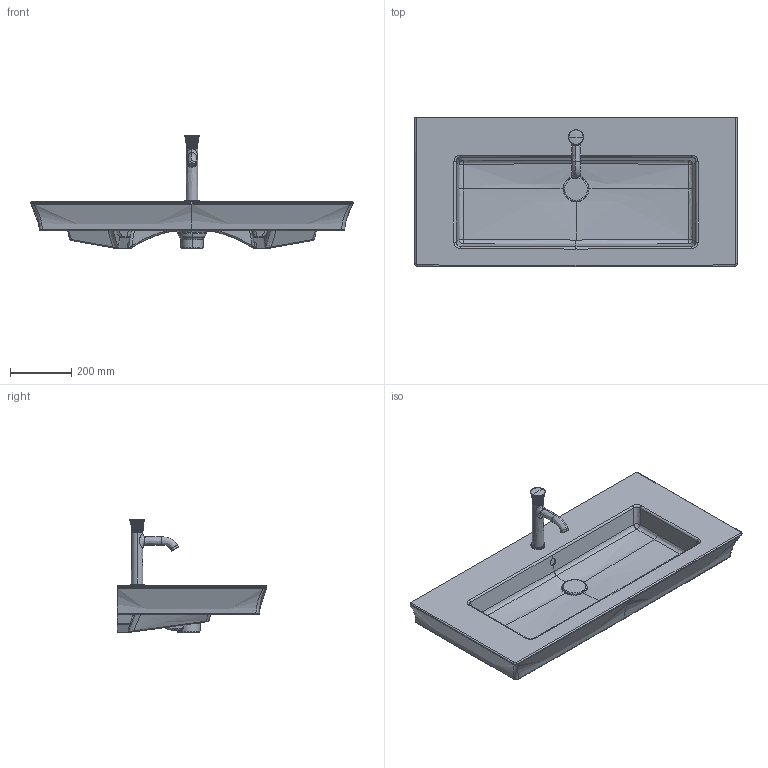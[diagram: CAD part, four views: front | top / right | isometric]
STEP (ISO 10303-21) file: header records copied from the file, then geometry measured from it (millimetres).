
FILE_DESCRIPTION(/* description */ (''),/* implementation_level */ '2;1');
FILE_NAME(/* name */ '236310',/* time_stamp */ '2021-06-21T15:50:23+02:00',/* author */ (''),/* organization */ (''),/* preprocessor_version */ 'ST-DEVELOPER v15',/* originating_system */ '',/* authorisation */ '');
FILE_SCHEMA (('AUTOMOTIVE_DESIGN'));
Length unit declared in the file: millimetre
Products named in the file (1): Document
Bounding box: 1056 x 490 x 370.81 mm (x, y, z)
Volume: 24513606.7 mm3; surface area: 1693023.9 mm2
Topology: 4 solids, 6 shells, 1560 faces, 3743 edges, 2194 vertices
Faces by surface type: bspline 1494, plane 66
Entity records: 98764 total; most frequent: CARTESIAN_POINT 77406, ORIENTED_EDGE 7462, EDGE_CURVE 3733, B_SPLINE_CURVE_WITH_KNOTS 2805, VERTEX_POINT 2194, EDGE_LOOP 1582, ADVANCED_FACE 1560, FACE_OUTER_BOUND 1560
